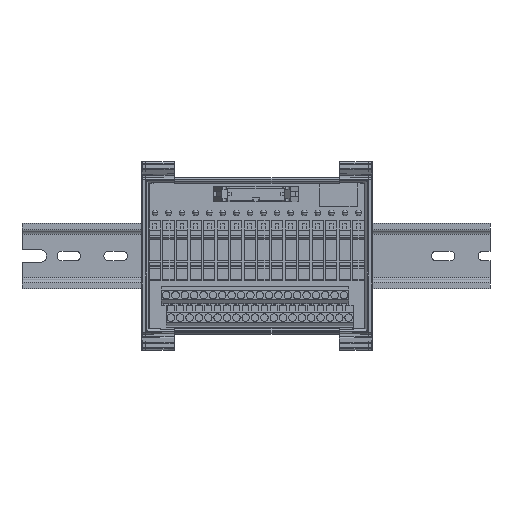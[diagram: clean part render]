
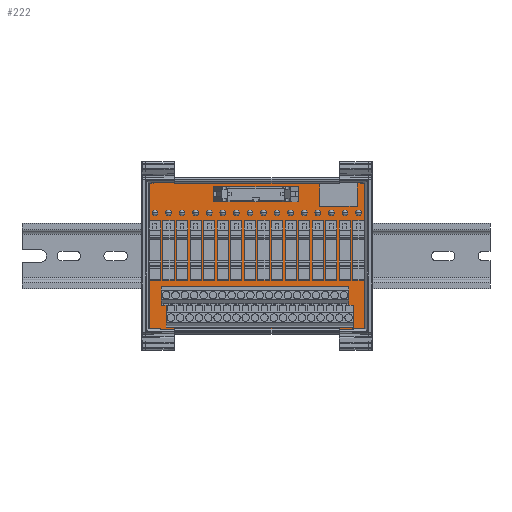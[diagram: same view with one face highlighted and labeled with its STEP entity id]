
A CAD part, top view. The second image highlights one B-rep face of the part: STEP entity #222.
In plain terms, the highlighted planar face has unit normal (0, 0, 1).
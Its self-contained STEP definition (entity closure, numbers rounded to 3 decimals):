
#33=DIRECTION('',(1.,0.,0.));
#34=VECTOR('',#33,117.);
#35=CARTESIAN_POINT('',(-58.5,-40.,1.55));
#36=LINE('',#35,#34);
#37=DIRECTION('',(0.,-1.,0.));
#38=VECTOR('',#37,80.);
#39=CARTESIAN_POINT('',(-58.5,40.,1.55));
#40=LINE('',#39,#38);
#41=DIRECTION('',(-1.,0.,0.));
#42=VECTOR('',#41,117.);
#43=CARTESIAN_POINT('',(58.5,40.,1.55));
#44=LINE('',#43,#42);
#45=DIRECTION('',(0.,1.,0.));
#46=VECTOR('',#45,80.);
#47=CARTESIAN_POINT('',(58.5,-40.,1.55));
#48=LINE('',#47,#46);
#49=DIRECTION('',(-1.,0.,0.));
#50=VECTOR('',#49,20.);
#51=CARTESIAN_POINT('',(54.,39.,1.55));
#52=LINE('',#51,#50);
#53=DIRECTION('',(0.,-1.,0.));
#54=VECTOR('',#53,12.5);
#55=CARTESIAN_POINT('',(34.,39.,1.55));
#56=LINE('',#55,#54);
#57=DIRECTION('',(1.,0.,0.));
#58=VECTOR('',#57,20.);
#59=CARTESIAN_POINT('',(34.,26.5,1.55));
#60=LINE('',#59,#58);
#61=DIRECTION('',(0.,1.,0.));
#62=VECTOR('',#61,12.5);
#63=CARTESIAN_POINT('',(54.,26.5,1.55));
#64=LINE('',#63,#62);
#105=CARTESIAN_POINT('',(-58.5,-40.,1.55));
#106=CARTESIAN_POINT('',(58.5,-40.,1.55));
#107=VERTEX_POINT('',#105);
#108=VERTEX_POINT('',#106);
#109=CARTESIAN_POINT('',(58.5,40.,1.55));
#110=VERTEX_POINT('',#109);
#111=CARTESIAN_POINT('',(-58.5,40.,1.55));
#112=VERTEX_POINT('',#111);
#121=CARTESIAN_POINT('',(54.,39.,1.55));
#122=CARTESIAN_POINT('',(34.,39.,1.55));
#123=VERTEX_POINT('',#121);
#124=VERTEX_POINT('',#122);
#125=CARTESIAN_POINT('',(34.,26.5,1.55));
#126=VERTEX_POINT('',#125);
#127=CARTESIAN_POINT('',(54.,26.5,1.55));
#128=VERTEX_POINT('',#127);
#201=CARTESIAN_POINT('',(0.,0.,1.55));
#202=DIRECTION('',(0.,0.,1.));
#203=DIRECTION('',(1.,0.,0.));
#204=AXIS2_PLACEMENT_3D('',#201,#202,#203);
#205=PLANE('',#204);
#206=ORIENTED_EDGE('',*,*,#153,.F.);
#207=ORIENTED_EDGE('',*,*,#168,.F.);
#208=ORIENTED_EDGE('',*,*,#182,.F.);
#209=ORIENTED_EDGE('',*,*,#195,.F.);
#210=EDGE_LOOP('',(#206,#207,#208,#209));
#211=FACE_OUTER_BOUND('',#210,.F.);
#213=ORIENTED_EDGE('',*,*,#212,.T.);
#215=ORIENTED_EDGE('',*,*,#214,.T.);
#217=ORIENTED_EDGE('',*,*,#216,.T.);
#219=ORIENTED_EDGE('',*,*,#218,.T.);
#220=EDGE_LOOP('',(#213,#215,#217,#219));
#221=FACE_BOUND('',#220,.F.);
#222=ADVANCED_FACE('',(#211,#221),#205,.T.);
#153=EDGE_CURVE('',#107,#108,#36,.T.);
#168=EDGE_CURVE('',#112,#107,#40,.T.);
#182=EDGE_CURVE('',#110,#112,#44,.T.);
#195=EDGE_CURVE('',#108,#110,#48,.T.);
#212=EDGE_CURVE('',#123,#124,#52,.T.);
#214=EDGE_CURVE('',#124,#126,#56,.T.);
#216=EDGE_CURVE('',#126,#128,#60,.T.);
#218=EDGE_CURVE('',#128,#123,#64,.T.);
